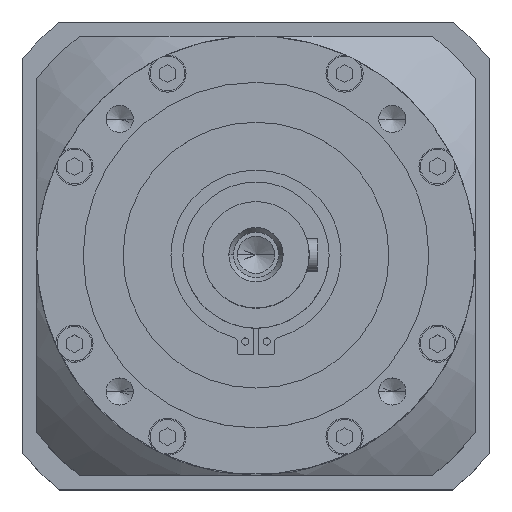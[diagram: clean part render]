
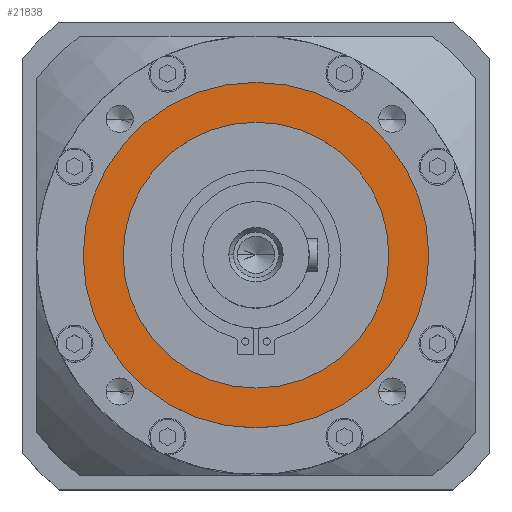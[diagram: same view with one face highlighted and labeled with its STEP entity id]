
A CAD part, top view. The second image highlights one B-rep face of the part: STEP entity #21838.
In plain terms, the highlighted planar face has unit normal (0, 0, 1).
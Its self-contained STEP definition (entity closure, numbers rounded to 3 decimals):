
#216 = AXIS2_PLACEMENT_3D ( 'NONE', #31775, #9314, #35509 ) ;
#249 = CIRCLE ( 'NONE', #44084, 65. ) ;
#474 = CARTESIAN_POINT ( 'NONE',  ( 0., 0., 0. ) ) ;
#2603 = CARTESIAN_POINT ( 'NONE',  ( 0., 50., 0. ) ) ;
#4077 = VERTEX_POINT ( 'NONE', #44343 ) ;
#4134 = DIRECTION ( 'NONE',  ( 1., 0., 0. ) ) ;
#7227 = EDGE_LOOP ( 'NONE', ( #47411, #44367 ) ) ;
#8615 = CIRCLE ( 'NONE', #10862, 50. ) ;
#9314 = DIRECTION ( 'NONE',  ( 0., 0., -1. ) ) ;
#10862 = AXIS2_PLACEMENT_3D ( 'NONE', #44713, #44667, #44655 ) ;
#11880 = EDGE_LOOP ( 'NONE', ( #18009, #35309 ) ) ;
#13759 = EDGE_CURVE ( 'NONE', #30964, #33046, #47875, .T. ) ;
#13928 = DIRECTION ( 'NONE',  ( -1., 0., 0. ) ) ;
#14773 = CIRCLE ( 'NONE', #216, 65. ) ;
#17748 = EDGE_CURVE ( 'NONE', #33046, #30964, #8615, .T. ) ;
#18009 = ORIENTED_EDGE ( 'NONE', *, *, #13759, .F. ) ;
#18151 = CARTESIAN_POINT ( 'NONE',  ( 50., 0., 0. ) ) ;
#20798 = DIRECTION ( 'NONE',  ( 1., 0., 0. ) ) ;
#21355 = PLANE ( 'NONE',  #35731 ) ;
#21838 = ADVANCED_FACE ( 'NONE', ( #39933, #28118 ), #21355, .F. ) ;
#22124 = VERTEX_POINT ( 'NONE', #41309 ) ;
#24255 = EDGE_CURVE ( 'NONE', #4077, #22124, #249, .T. ) ;
#26662 = DIRECTION ( 'NONE',  ( 0., 0., -1. ) ) ;
#26947 = DIRECTION ( 'NONE',  ( 0., 0., 1. ) ) ;
#27000 = CARTESIAN_POINT ( 'NONE',  ( 0., 0., 0. ) ) ;
#27921 = EDGE_CURVE ( 'NONE', #22124, #4077, #14773, .T. ) ;
#28118 = FACE_OUTER_BOUND ( 'NONE', #7227, .T. ) ;
#30964 = VERTEX_POINT ( 'NONE', #18151 ) ;
#31775 = CARTESIAN_POINT ( 'NONE',  ( 0., 0., 0. ) ) ;
#33046 = VERTEX_POINT ( 'NONE', #46056 ) ;
#35309 = ORIENTED_EDGE ( 'NONE', *, *, #17748, .F. ) ;
#35509 = DIRECTION ( 'NONE',  ( 1., 0., 0. ) ) ;
#35731 = AXIS2_PLACEMENT_3D ( 'NONE', #2603, #36347, #13928 ) ;
#36347 = DIRECTION ( 'NONE',  ( 0., 0., -1. ) ) ;
#39933 = FACE_BOUND ( 'NONE', #11880, .T. ) ;
#41309 = CARTESIAN_POINT ( 'NONE',  ( 65., 0., 0. ) ) ;
#41830 = AXIS2_PLACEMENT_3D ( 'NONE', #27000, #26947, #20798 ) ;
#44084 = AXIS2_PLACEMENT_3D ( 'NONE', #474, #26662, #4134 ) ;
#44343 = CARTESIAN_POINT ( 'NONE',  ( -65., 0., 0. ) ) ;
#44367 = ORIENTED_EDGE ( 'NONE', *, *, #24255, .F. ) ;
#44655 = DIRECTION ( 'NONE',  ( 1., 0., 0. ) ) ;
#44667 = DIRECTION ( 'NONE',  ( 0., 0., 1. ) ) ;
#44713 = CARTESIAN_POINT ( 'NONE',  ( 0., 0., 0. ) ) ;
#46056 = CARTESIAN_POINT ( 'NONE',  ( -50., 0., 0. ) ) ;
#47411 = ORIENTED_EDGE ( 'NONE', *, *, #27921, .F. ) ;
#47875 = CIRCLE ( 'NONE', #41830, 50. ) ;
